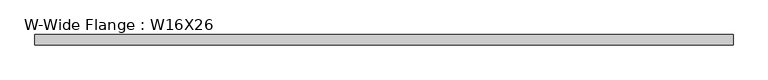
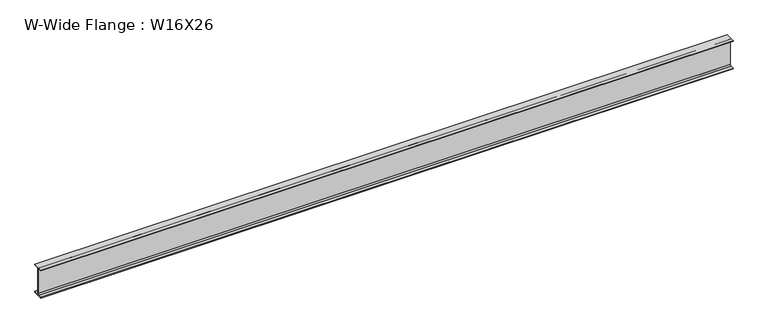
"""IFC4 building model written with IfcOpenShell, lengths in millimetres: beam geometry, W-Wide Flange : W16X26."""

from ifc_helpers import new_model, si_unit, point, frame, frame_2d, origin, place, context, project, spatial, polyline, circle_curve, trimmed, segment, composite_curve, outline, extrude, source, transform, mapped, element, save


def w_wide_flange_w16x26_70125ba5(model_context):
    return source(origin(), model_context, "Body", "SweptSolid", [
        extrude(outline(composite_curve([segment(polyline([(69.85, -190.627), (69.85, -199.39), (-69.85, -199.39), (-69.85, -190.627), (-21.3995, -190.627)]), True, "CONTINUOUS"), segment(trimmed(circle_curve(frame_2d((-21.3995, -172.4025)), 18.2245), [point((-21.3995, -190.627))], [point((-3.175, -172.4025))], True, "CARTESIAN"), True, "CONTINUOUS"), segment(polyline([(-3.175, -172.4025), (-3.175, 172.4025)]), True, "CONTINUOUS"), segment(trimmed(circle_curve(frame_2d((-21.3995, 172.4025)), 18.2245), [point((-3.175, 172.4025))], [point((-21.3995, 190.627))], True, "CARTESIAN"), True, "CONTINUOUS"), segment(polyline([(-21.3995, 190.627), (-69.85, 190.627), (-69.85, 199.39), (69.85, 199.39), (69.85, 190.627), (21.3995, 190.627)]), True, "CONTINUOUS"), segment(trimmed(circle_curve(frame_2d((21.3995, 172.4025)), 18.2245), [point((21.3995, 190.627))], [point((3.175, 172.4025))], True, "CARTESIAN"), True, "CONTINUOUS"), segment(polyline([(3.175, 172.4025), (3.175, -172.4025)]), True, "CONTINUOUS"), segment(trimmed(circle_curve(frame_2d((21.3995, -172.4025)), 18.2245), [point((3.175, -172.4025))], [point((21.3995, -190.627))], True, "CARTESIAN"), True, "CONTINUOUS"), segment(polyline([(21.3995, -190.627), (69.85, -190.627)]), True, "CONTINUOUS")], self_intersect=False)), frame((-4672.838, 0.0, 0.0), z_axis=(1.0, 0.0, 0.0), x_axis=(0.0, 1.0, 0.0)), (0.0, 0.0, 1.0), 9340.088),
    ])


if __name__ == "__main__":
    model = new_model("IFC4")
    model_context = context("Model", 3, world=origin())
    ifc_project = project(units=[si_unit("LENGTHUNIT", "METRE", prefix="MILLI")], contexts=[model_context])
    site = spatial("IfcSite", under=ifc_project)
    building = spatial("IfcBuilding", under=site)
    placement = place(None, origin())
    w_wide_flange_w16x26_shape = w_wide_flange_w16x26_70125ba5(model_context)
    element("IfcBeam", 1, ObjectType="W-Wide Flange : W16X26", at=placement, inside=building, context=model_context, shape_type="MappedRepresentation", body=[
        mapped(w_wide_flange_w16x26_shape, transform((0.0, 0.0, 0.0), x_axis=(1.0, 0.0, 0.0), y_axis=(0.0, 1.0, 0.0), z_axis=(0.0, 0.0, 1.0))),
    ])
    save(model, "model.ifc")
